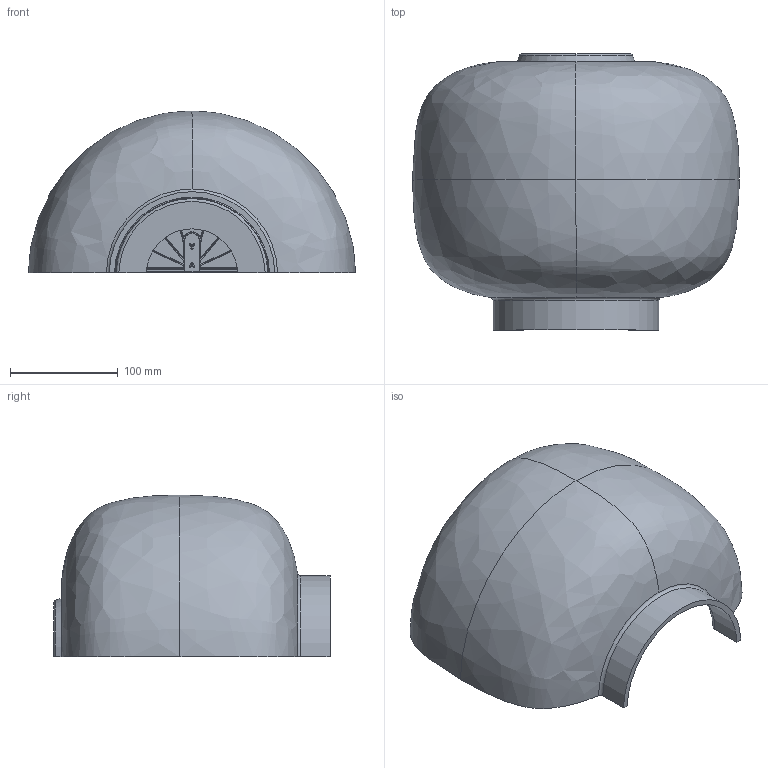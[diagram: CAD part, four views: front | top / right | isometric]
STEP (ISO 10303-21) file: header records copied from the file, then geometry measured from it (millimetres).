
FILE_DESCRIPTION (( 'STEP AP203' ), '1' );
FILE_NAME ('210_3-SEMI_W_ME.STEP', '2021-04-12T07:05:03', ( '' ), ( '' ), 'SwSTEP 2.0', 'SolidWorks 2021', '' );
FILE_SCHEMA (( 'CONFIG_CONTROL_DESIGN' ));
Length unit declared in the file: millimetre
Products named in the file (1): 210_3-SEMI_W_ME
Bounding box: 303.99 x 256.63 x 150.5 mm (x, y, z)
Volume: 684112.3 mm3; surface area: 284184.7 mm2
Topology: 2 solids, 2 shells, 291 faces, 729 edges, 429 vertices
Faces by surface type: cylinder 86, plane 63, torus 61, bspline 34, cone 27, sphere 20
Entity records: 9927 total; most frequent: CARTESIAN_POINT 3361, ORIENTED_EDGE 1426, DIRECTION 1347, EDGE_CURVE 713, AXIS2_PLACEMENT_3D 558, VERTEX_POINT 429, CIRCLE 300, EDGE_LOOP 294
